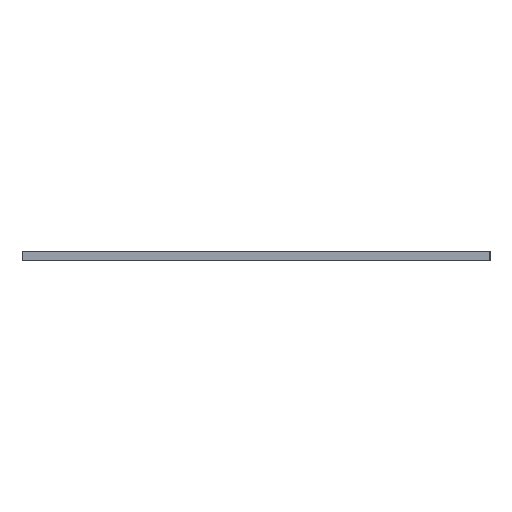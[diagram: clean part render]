
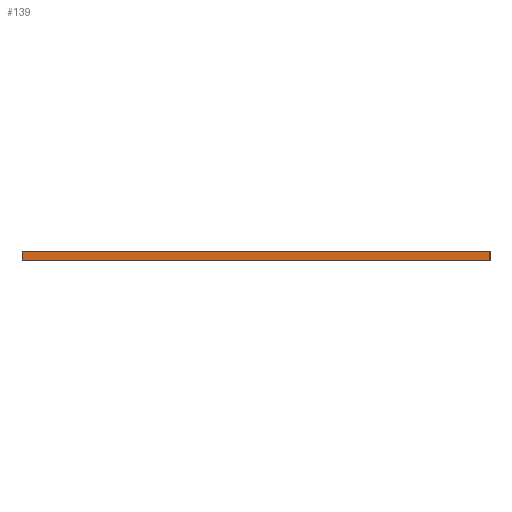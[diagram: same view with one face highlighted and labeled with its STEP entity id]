
A CAD part, left-side view. The second image highlights one B-rep face of the part: STEP entity #139.
In plain terms, the highlighted planar face has unit normal (-1, 0, 0).
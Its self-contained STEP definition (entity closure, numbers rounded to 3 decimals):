
#139=ADVANCED_FACE('NONE',(#307),#308,.F.);
#307=FACE_OUTER_BOUND('',#525,.T.);
#308=PLANE('',#526);
#525=EDGE_LOOP('',(#867,#868,#869,#870));
#526=AXIS2_PLACEMENT_3D('',#871,#872,#873);
#867=ORIENTED_EDGE('',*,*,#1357,.T.);
#868=ORIENTED_EDGE('',*,*,#1358,.F.);
#869=ORIENTED_EDGE('',*,*,#1359,.F.);
#870=ORIENTED_EDGE('',*,*,#1354,.T.);
#871=CARTESIAN_POINT('',(-7.45,125.4,2.5));
#872=DIRECTION('',(1.0,0.,0.));
#873=DIRECTION('',(0.0,1.0,0.));
#1354=EDGE_CURVE('NONE',#1666,#1664,#1667,.T.);
#1357=EDGE_CURVE('NONE',#1664,#1670,#1671,.T.);
#1358=EDGE_CURVE('NONE',#1672,#1670,#1673,.T.);
#1359=EDGE_CURVE('Kante11',#1666,#1672,#1674,.T.);
#1664=VERTEX_POINT('NONE',#2047);
#1666=VERTEX_POINT('NONE',#2050);
#1667=LINE('',#2051,#2052);
#1670=VERTEX_POINT('NONE',#2056);
#1671=LINE('',#2057,#2058);
#1672=VERTEX_POINT('NONE',#2059);
#1673=LINE('',#2060,#2061);
#1674=LINE('',#2062,#2063);
#2047=CARTESIAN_POINT('',(-7.45,125.4,0.0));
#2050=CARTESIAN_POINT('',(-7.45,125.4,2.5));
#2051=CARTESIAN_POINT('',(-7.45,125.4,2.5));
#2052=VECTOR('',#2381,1000.0);
#2056=CARTESIAN_POINT('',(-7.45,-3.0,0.0));
#2057=CARTESIAN_POINT('',(-7.45,125.4,0.0));
#2058=VECTOR('',#2383,1000.0);
#2059=CARTESIAN_POINT('',(-7.45,-3.0,2.5));
#2060=CARTESIAN_POINT('',(-7.45,-3.0,2.5));
#2061=VECTOR('',#2384,1000.0);
#2062=CARTESIAN_POINT('',(-7.45,125.4,2.5));
#2063=VECTOR('',#2385,1000.0);
#2381=DIRECTION('',(-0.0,-0.0,-1.0));
#2383=DIRECTION('',(0.,-1.0,0.0));
#2384=DIRECTION('',(-0.0,-0.0,-1.0));
#2385=DIRECTION('',(0.,-1.0,0.0));
